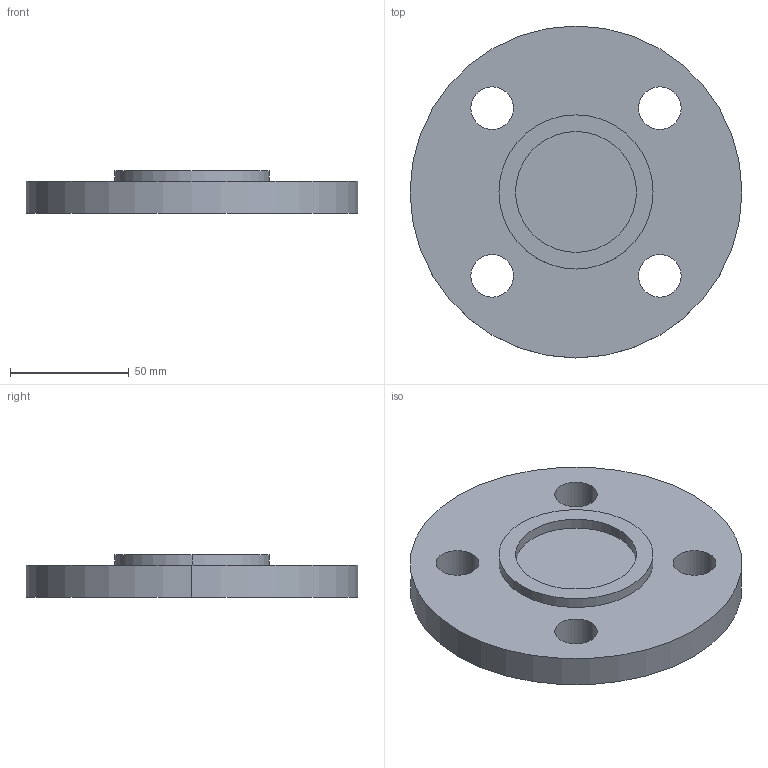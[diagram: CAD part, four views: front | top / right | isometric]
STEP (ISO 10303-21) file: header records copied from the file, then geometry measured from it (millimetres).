
FILE_DESCRIPTION (( 'STEP AP214' ), '1' );
FILE_NAME ('PN40 DN32 Type 05 - Type C Face.STEP', '2018-12-30T00:02:42', ( '' ), ( '' ), 'SwSTEP 2.0', 'SolidWorks 2019', '' );
FILE_SCHEMA (( 'AUTOMOTIVE_DESIGN' ));
Length unit declared in the file: millimetre
Products named in the file (1): PN40 DN32 Type 05 - Type C Face
Bounding box: 140 x 140 x 18 mm (x, y, z)
Volume: 199814.7 mm3; surface area: 39383 mm2
Topology: 1 solids, 1 shells, 18 faces, 42 edges, 28 vertices
Faces by surface type: cylinder 14, plane 4
Entity records: 584 total; most frequent: DIRECTION 108, CARTESIAN_POINT 89, ORIENTED_EDGE 84, AXIS2_PLACEMENT_3D 47, EDGE_CURVE 42, CIRCLE 28, VERTEX_POINT 28, EDGE_LOOP 28
